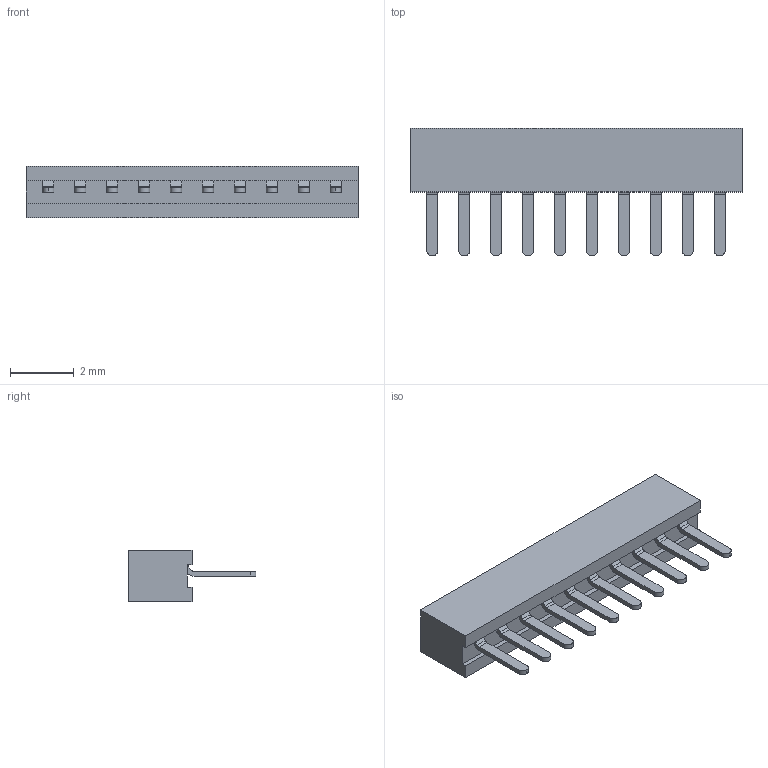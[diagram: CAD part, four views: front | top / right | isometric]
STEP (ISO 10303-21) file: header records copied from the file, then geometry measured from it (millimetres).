
FILE_DESCRIPTION (( 'STEP AP203' ), '1' );
FILE_NAME ('PM100-1-10-Z-2.0-XX(L4.0) (1.00 等齬 眻齬譫 呿詢2.0-HCTL).STEP', '2026-02-03T08:35:24', ( '' ), ( '' ), 'SwSTEP 2.0', 'SolidWorks 2025', '' );
FILE_SCHEMA (( 'CONFIG_CONTROL_DESIGN' ));
Length unit declared in the file: millimetre
Products named in the file (1): PM100-1-10-Z-2.0-XX(L4.0) (1.00 单排 直排母 塑高2.0-HCTL)
Bounding box: 10.4 x 4 x 1.6 mm (x, y, z)
Volume: 33 mm3; surface area: 107.5 mm2
Topology: 1 solids, 1 shells, 192 faces, 480 edges, 300 vertices
Faces by surface type: plane 160, cylinder 32
Entity records: 5665 total; most frequent: CARTESIAN_POINT 973, ORIENTED_EDGE 960, DIRECTION 930, EDGE_CURVE 480, LINE 416, VECTOR 416, VERTEX_POINT 300, AXIS2_PLACEMENT_3D 257
